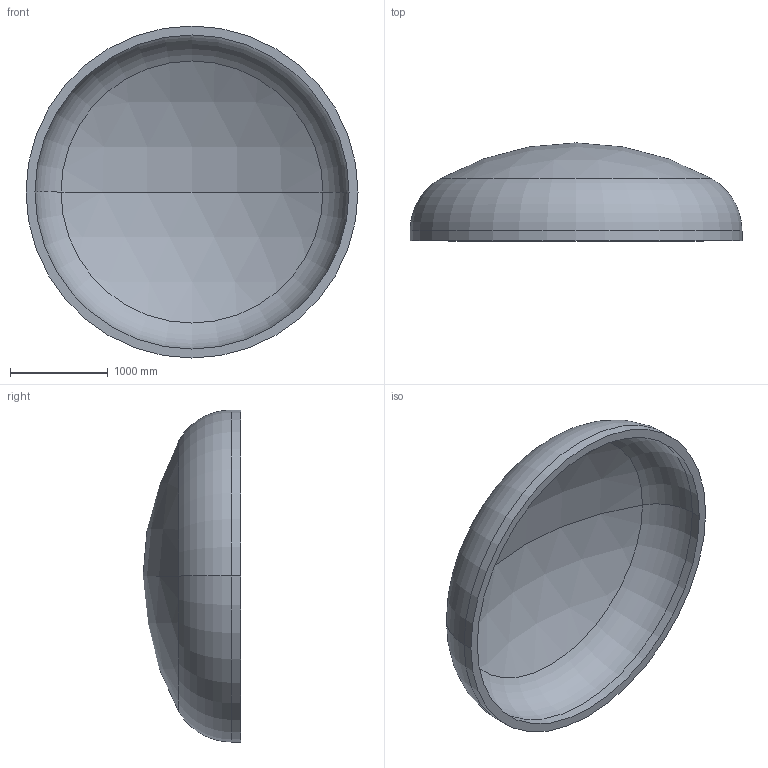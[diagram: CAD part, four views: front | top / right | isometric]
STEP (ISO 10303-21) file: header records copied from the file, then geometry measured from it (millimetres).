
FILE_DESCRIPTION (( 'STEP AP203' ), '1' );
FILE_NAME ('DIN 28013 Korbbogenform_-_Boden DIN 28013 - 3400 x 100 - I - s=92.step', '2016-07-01T19:49:50', ( '' ), ( '' ), 'SwSTEP 2.0', 'SolidWorks 2013', '' );
FILE_SCHEMA (( 'CONFIG_CONTROL_DESIGN' ));
Length unit declared in the file: millimetre
Products named in the file (1): DIN 28013 Korbbogenform_-_Boden DIN 28013 - 3400 x 100 - I - s=92
Bounding box: 3400 x 1002.78 x 3400 mm (x, y, z)
Volume: 1212793779.9 mm3; surface area: 27338900 mm2
Topology: 1 solids, 1 shells, 13 faces, 24 edges, 14 vertices
Faces by surface type: torus 4, cylinder 4, sphere 4, plane 1
Entity records: 407 total; most frequent: DIRECTION 72, CARTESIAN_POINT 52, ORIENTED_EDGE 48, AXIS2_PLACEMENT_3D 34, EDGE_CURVE 24, CIRCLE 20, EDGE_LOOP 14, VERTEX_POINT 14
